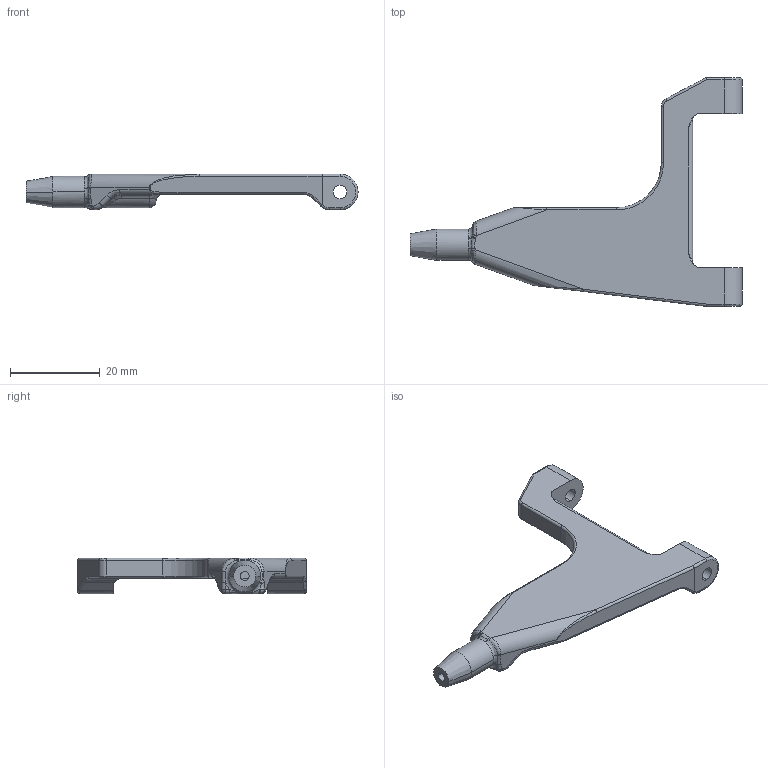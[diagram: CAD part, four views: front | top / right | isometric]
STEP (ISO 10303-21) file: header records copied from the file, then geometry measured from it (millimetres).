
FILE_DESCRIPTION (( 'STEP AP214' ), '1' );
FILE_NAME ('Ïåðåäíèé ðû÷àã ÏÂ.STEP', '2019-03-21T14:11:16', ( '' ), ( '' ), 'SwSTEP 2.0', 'SolidWorks 2018', '' );
FILE_SCHEMA (( 'AUTOMOTIVE_DESIGN' ));
Length unit declared in the file: millimetre
Products named in the file (1): Ïåðåäíèé ðû÷àã ÏÂ
Bounding box: 74 x 50.98 x 8 mm (x, y, z)
Volume: 6169.6 mm3; surface area: 4234.4 mm2
Topology: 1 solids, 1 shells, 165 faces, 394 edges, 231 vertices
Faces by surface type: cylinder 68, bspline 41, plane 33, torus 19, cone 2, sphere 2
Entity records: 5919 total; most frequent: CARTESIAN_POINT 2361, ORIENTED_EDGE 784, DIRECTION 705, EDGE_CURVE 392, AXIS2_PLACEMENT_3D 280, VERTEX_POINT 231, EDGE_LOOP 171, FACE_OUTER_BOUND 165
